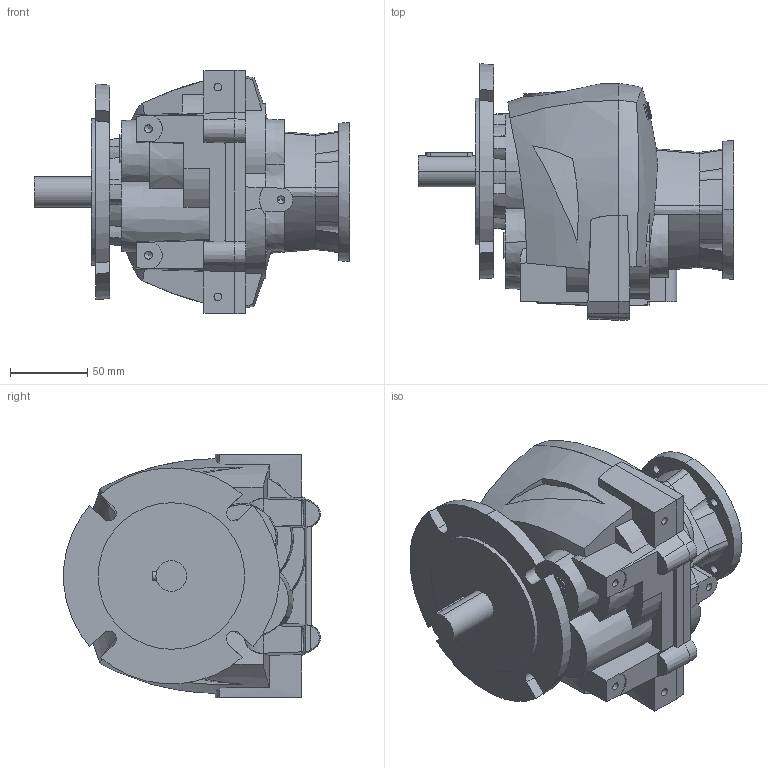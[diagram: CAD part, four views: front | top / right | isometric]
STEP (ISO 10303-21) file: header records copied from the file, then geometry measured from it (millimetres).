
FILE_DESCRIPTION (( 'STEP AP203' ), '1' );
FILE_NAME ('RBA2_IFL63B4_OFL140_OSH20L40.STEP', '2013-02-07T10:18:31', ( '' ), ( '' ), 'SwSTEP 2.0', 'SolidWorks 2012', '' );
FILE_SCHEMA (( 'CONFIG_CONTROL_DESIGN' ));
Length unit declared in the file: millimetre
Products named in the file (1): RBA2_IFL63B4_OFL140_OSH20L40
Bounding box: 204.5 x 166.28 x 158 mm (x, y, z)
Volume: 1890841.7 mm3; surface area: 139222.5 mm2
Topology: 1 solids, 1 shells, 505 faces, 1421 edges, 943 vertices
Faces by surface type: plane 227, cylinder 124, bspline 78, cone 74, torus 2
Entity records: 21756 total; most frequent: CARTESIAN_POINT 9791, ORIENTED_EDGE 2830, DIRECTION 1997, EDGE_CURVE 1415, VERTEX_POINT 941, AXIS2_PLACEMENT_3D 746, B_SPLINE_CURVE_WITH_KNOTS 553, EDGE_LOOP 542
